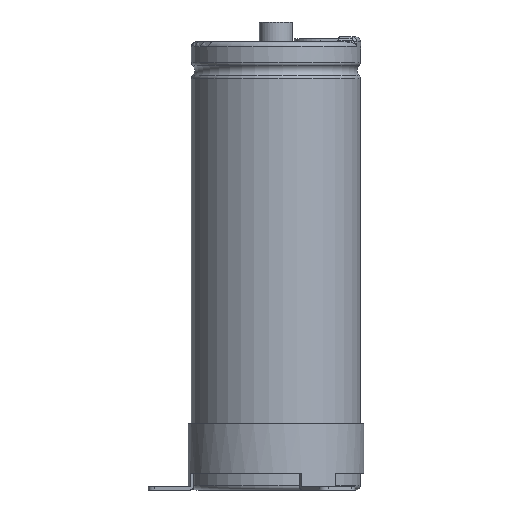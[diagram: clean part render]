
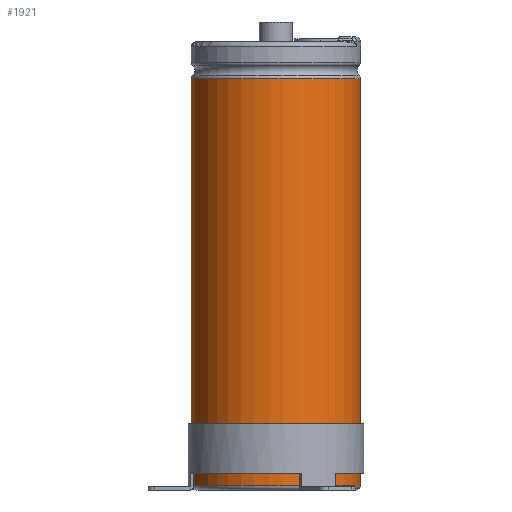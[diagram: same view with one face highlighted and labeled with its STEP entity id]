
A CAD part, front view. The second image highlights one B-rep face of the part: STEP entity #1921.
In plain terms, the highlighted cylindrical face has radius 25.5 mm (diameter 51 mm), a partial arc.
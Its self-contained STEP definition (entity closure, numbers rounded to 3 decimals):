
#940=LINE('',#9285,#1178);
#941=LINE('',#9289,#1179);
#1178=VECTOR('',#6925,1.);
#1179=VECTOR('',#6928,1.);
#1452=FACE_OUTER_BOUND('',#2362,.T.);
#1577=CYLINDRICAL_SURFACE('',#5769,25.5);
#1921=ADVANCED_FACE('',(#1452),#1577,.T.);
#2362=EDGE_LOOP('',(#3435,#3436,#3437,#3438));
#3435=ORIENTED_EDGE('',*,*,#4849,.T.);
#3436=ORIENTED_EDGE('',*,*,#4850,.T.);
#3437=ORIENTED_EDGE('',*,*,#4851,.F.);
#3438=ORIENTED_EDGE('',*,*,#4852,.F.);
#4222=VERTEX_POINT('',#9278);
#4224=VERTEX_POINT('',#9282);
#4225=VERTEX_POINT('',#9286);
#4226=VERTEX_POINT('',#9288);
#4849=EDGE_CURVE('',#4222,#4224,#5258,.T.);
#4850=EDGE_CURVE('',#4224,#4225,#940,.T.);
#4851=EDGE_CURVE('',#4226,#4225,#5259,.T.);
#4852=EDGE_CURVE('',#4222,#4226,#941,.T.);
#5258=CIRCLE('',#5766,25.5);
#5259=CIRCLE('',#5768,25.5);
#5766=AXIS2_PLACEMENT_3D('',#9283,#6921,#6922);
#5768=AXIS2_PLACEMENT_3D('',#9287,#6926,#6927);
#5769=AXIS2_PLACEMENT_3D('',#9290,#6929,#6930);
#6921=DIRECTION('',(0.,0.,-1.));
#6922=DIRECTION('',(0.,1.,0.));
#6925=DIRECTION('',(0.,0.,-1.));
#6926=DIRECTION('',(0.,0.,-1.));
#6927=DIRECTION('',(0.,1.,0.));
#6928=DIRECTION('',(0.,0.,-1.));
#6929=DIRECTION('',(0.,0.,-1.));
#6930=DIRECTION('',(0.,1.,0.));
#9278=CARTESIAN_POINT('',(3.989,25.186,123.9));
#9282=CARTESIAN_POINT('',(-3.989,25.186,123.9));
#9283=CARTESIAN_POINT('',(0.,0.,123.9));
#9285=CARTESIAN_POINT('',(-3.989,25.186,123.9));
#9286=CARTESIAN_POINT('',(-3.989,25.186,1.5));
#9287=CARTESIAN_POINT('',(0.,0.,1.5));
#9288=CARTESIAN_POINT('',(3.989,25.186,1.5));
#9289=CARTESIAN_POINT('',(3.989,25.186,123.9));
#9290=CARTESIAN_POINT('',(0.,0.,0.));
